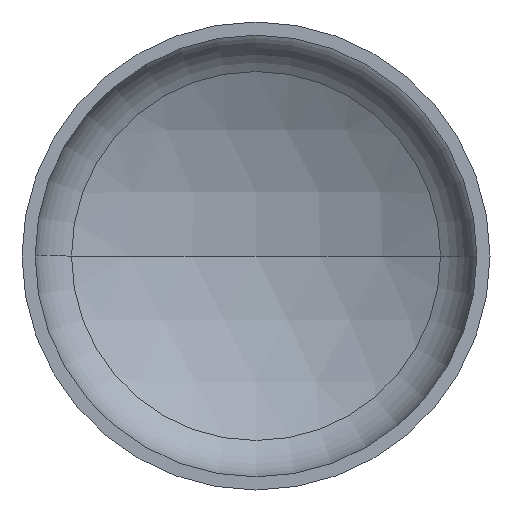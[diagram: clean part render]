
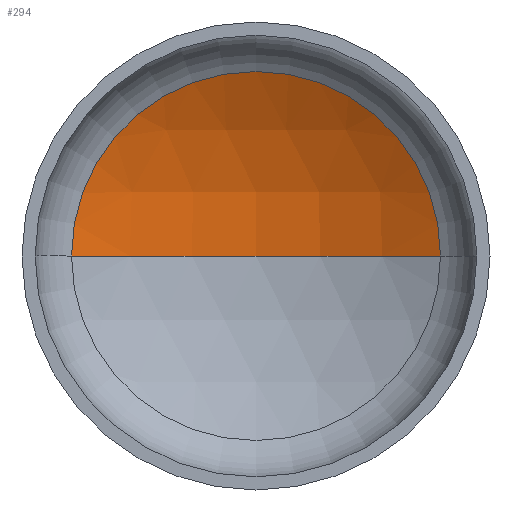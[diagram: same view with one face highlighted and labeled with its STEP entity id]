
A CAD part, front view. The second image highlights one B-rep face of the part: STEP entity #294.
In plain terms, the highlighted spherical face has radius 2560 mm.
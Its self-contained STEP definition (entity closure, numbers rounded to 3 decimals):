
#6 = AXIS2_PLACEMENT_3D ( 'NONE', #332, #202, #336 ) ;
#10 = AXIS2_PLACEMENT_3D ( 'NONE', #303, #349, #194 ) ;
#14 = AXIS2_PLACEMENT_3D ( 'NONE', #393, #348, #301 ) ;
#16 = DIRECTION ( 'NONE',  ( 0., -1., 0. ) ) ;
#19 = CIRCLE ( 'NONE', #10, 2560. ) ;
#35 = AXIS2_PLACEMENT_3D ( 'NONE', #235, #16, #276 ) ;
#75 = FACE_OUTER_BOUND ( 'NONE', #166, .T. ) ;
#78 = VERTEX_POINT ( 'NONE', #273 ) ;
#92 = ORIENTED_EDGE ( 'NONE', *, *, #136, .T. ) ;
#118 = VERTEX_POINT ( 'NONE', #189 ) ;
#125 = ORIENTED_EDGE ( 'NONE', *, *, #344, .T. ) ;
#136 = EDGE_CURVE ( 'NONE', #78, #118, #209, .T. ) ;
#166 = EDGE_LOOP ( 'NONE', ( #188, #125, #92 ) ) ;
#171 = VERTEX_POINT ( 'NONE', #242 ) ;
#188 = ORIENTED_EDGE ( 'NONE', *, *, #346, .F. ) ;
#189 = CARTESIAN_POINT ( 'NONE',  ( -1261.449, 526.383, 0. ) ) ;
#194 = DIRECTION ( 'NONE',  ( -1., 0., 0. ) ) ;
#202 = DIRECTION ( 'NONE',  ( 0., 0., 1. ) ) ;
#209 = CIRCLE ( 'NONE', #35, 1261.449 ) ;
#234 = CIRCLE ( 'NONE', #6, 2560. ) ;
#235 = CARTESIAN_POINT ( 'NONE',  ( 0., 526.383, 0. ) ) ;
#242 = CARTESIAN_POINT ( 'NONE',  ( 0., 858.75, 0. ) ) ;
#273 = CARTESIAN_POINT ( 'NONE',  ( 1261.449, 526.383, 0. ) ) ;
#276 = DIRECTION ( 'NONE',  ( 1., 0., 0. ) ) ;
#294 = ADVANCED_FACE ( 'NONE', ( #75 ), #380, .F. ) ;
#301 = DIRECTION ( 'NONE',  ( -1., 0., 0. ) ) ;
#303 = CARTESIAN_POINT ( 'NONE',  ( 0., -1701.25, 0. ) ) ;
#332 = CARTESIAN_POINT ( 'NONE',  ( 0., -1701.25, 0. ) ) ;
#336 = DIRECTION ( 'NONE',  ( 1., 0., 0. ) ) ;
#344 = EDGE_CURVE ( 'NONE', #171, #78, #19, .T. ) ;
#346 = EDGE_CURVE ( 'NONE', #171, #118, #234, .T. ) ;
#348 = DIRECTION ( 'NONE',  ( 0., 0., -1. ) ) ;
#349 = DIRECTION ( 'NONE',  ( 0., 0., -1. ) ) ;
#380 = SPHERICAL_SURFACE ( 'NONE', #14, 2560. ) ;
#393 = CARTESIAN_POINT ( 'NONE',  ( 0., -1701.25, 0. ) ) ;
